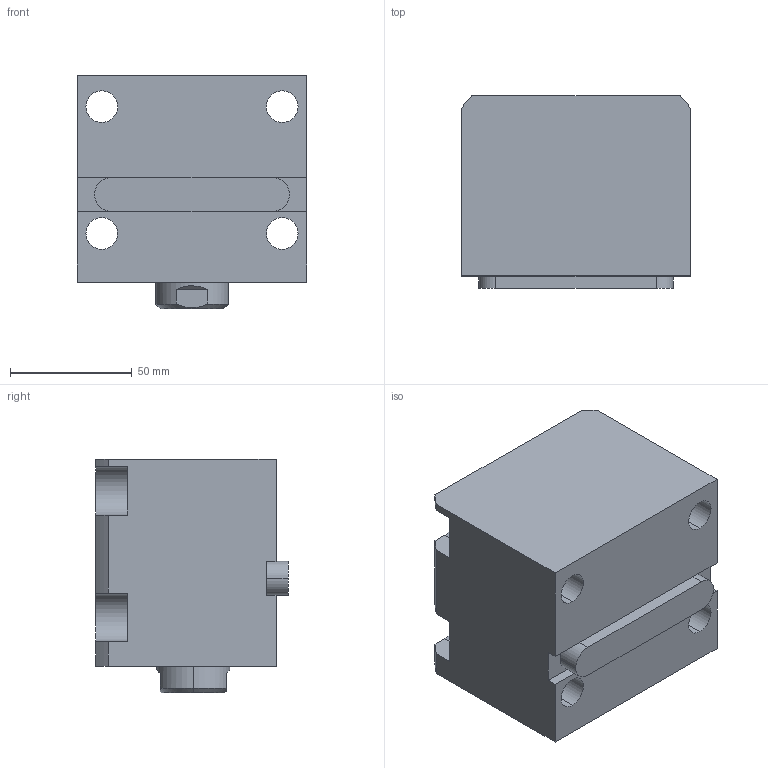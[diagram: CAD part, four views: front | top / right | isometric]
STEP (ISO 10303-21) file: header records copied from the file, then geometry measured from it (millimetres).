
FILE_DESCRIPTION (( 'STEP AP203' ), '1' );
FILE_NAME ('CHTB-LA50-25N.STEP', '2018-05-18T00:23:26', ( '' ), ( '' ), 'SwSTEP 2.0', 'SolidWorks 2015', '' );
FILE_SCHEMA (( 'CONFIG_CONTROL_DESIGN' ));
Length unit declared in the file: millimetre
Products named in the file (4): 掛极LA50-25N; 活塞杆LA50-25N; CHTM-SDMA50QG; CHTB-LA50-25N
Assembly tree (3 placements, depth 2):
  CHTB-LA50-25N
    掛极LA50-25N
    活塞杆LA50-25N
    CHTM-SDMA50QG
Bounding box: 94 x 79 x 96 mm (x, y, z)
Volume: 504396.4 mm3; surface area: 98152.8 mm2
Topology: 3 solids, 3 shells, 202 faces, 542 edges, 358 vertices
Faces by surface type: cylinder 96, plane 53, cone 23, torus 16, bspline 14
Entity records: 11255 total; most frequent: CARTESIAN_POINT 5992, ORIENTED_EDGE 1072, DIRECTION 958, EDGE_CURVE 536, AXIS2_PLACEMENT_3D 377, VERTEX_POINT 358, EDGE_LOOP 234, VECTOR 204
